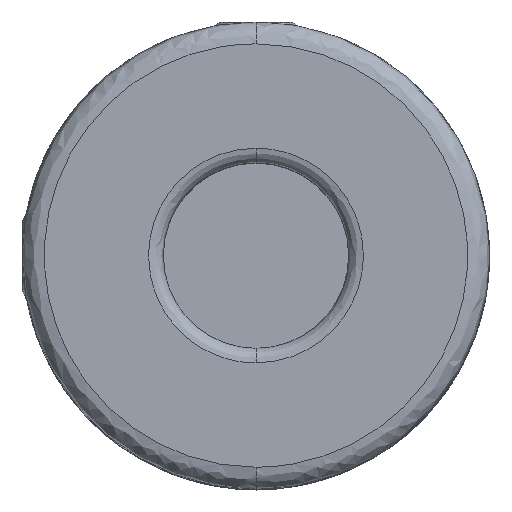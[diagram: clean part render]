
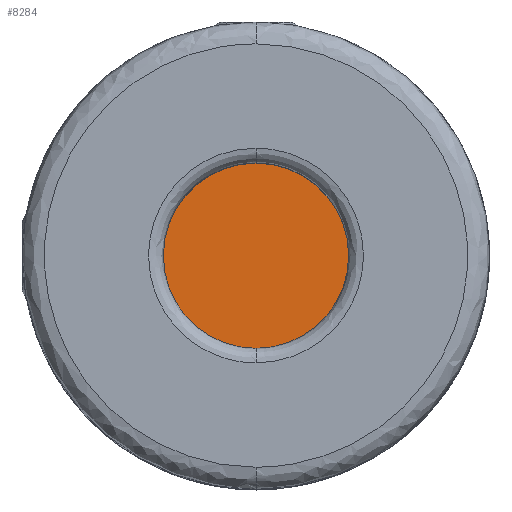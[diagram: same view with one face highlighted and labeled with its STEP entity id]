
A CAD part, top view. The second image highlights one B-rep face of the part: STEP entity #8284.
In plain terms, the highlighted planar face has unit normal (0, 0, -1).
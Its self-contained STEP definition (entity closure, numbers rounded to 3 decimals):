
#124 = DIRECTION ( 'NONE',  ( 0., -1., 0. ) ) ;
#125 = DIRECTION ( 'NONE',  ( 0., 0., 1. ) ) ;
#126 = CARTESIAN_POINT ( 'NONE',  ( 1.121, 1.995, 6.052 ) ) ;
#127 = AXIS2_PLACEMENT_3D ( 'NONE', #126, #125, #124 ) ;
#128 = CIRCLE ( 'NONE', #127, 3.175 ) ;
#8282 = EDGE_LOOP ( 'NONE', ( #8302, #8293 ) ) ;
#8284 = ADVANCED_FACE ( 'NONE', ( #12595 ), #12638, .T. ) ;
#8292 = VERTEX_POINT ( 'NONE', #12661 ) ;
#8293 = ORIENTED_EDGE ( 'NONE', *, *, #8305, .F. ) ;
#8302 = ORIENTED_EDGE ( 'NONE', *, *, #8303, .F. ) ;
#8303 = EDGE_CURVE ( 'NONE', #8304, #8292, #12694, .T. ) ;
#8304 = VERTEX_POINT ( 'NONE', #12733 ) ;
#8305 = EDGE_CURVE ( 'NONE', #8292, #8304, #128, .T. ) ;
#12595 = FACE_OUTER_BOUND ( 'NONE', #8282, .T. ) ;
#12634 = DIRECTION ( 'NONE',  ( -1., 0., 0. ) ) ;
#12635 = DIRECTION ( 'NONE',  ( 0., 0., -1. ) ) ;
#12636 = CARTESIAN_POINT ( 'NONE',  ( -19.513, 1.995, 6.052 ) ) ;
#12637 = AXIS2_PLACEMENT_3D ( 'NONE', #12636, #12635, #12634 ) ;
#12638 = PLANE ( 'NONE',  #12637 ) ;
#12661 = CARTESIAN_POINT ( 'NONE',  ( 1.121, 5.17, 6.052 ) ) ;
#12694 = CIRCLE ( 'NONE', #12737, 3.175 ) ;
#12733 = CARTESIAN_POINT ( 'NONE',  ( 1.121, -1.18, 6.052 ) ) ;
#12734 = DIRECTION ( 'NONE',  ( 0., -1., 0. ) ) ;
#12735 = DIRECTION ( 'NONE',  ( 0., 0., 1. ) ) ;
#12736 = CARTESIAN_POINT ( 'NONE',  ( 1.121, 1.995, 6.052 ) ) ;
#12737 = AXIS2_PLACEMENT_3D ( 'NONE', #12736, #12735, #12734 ) ;
